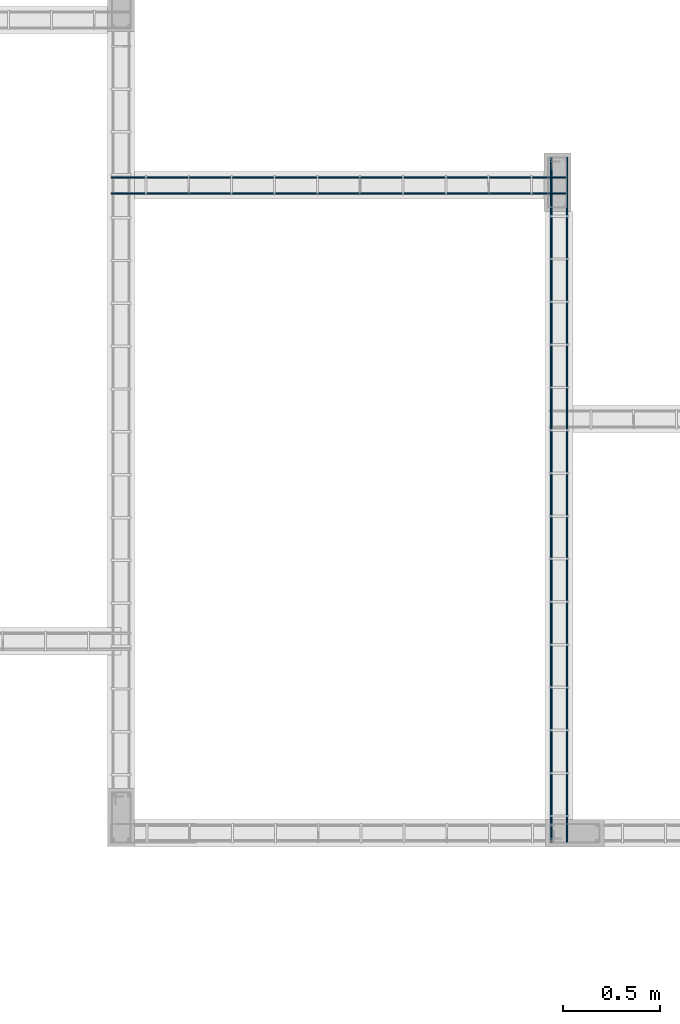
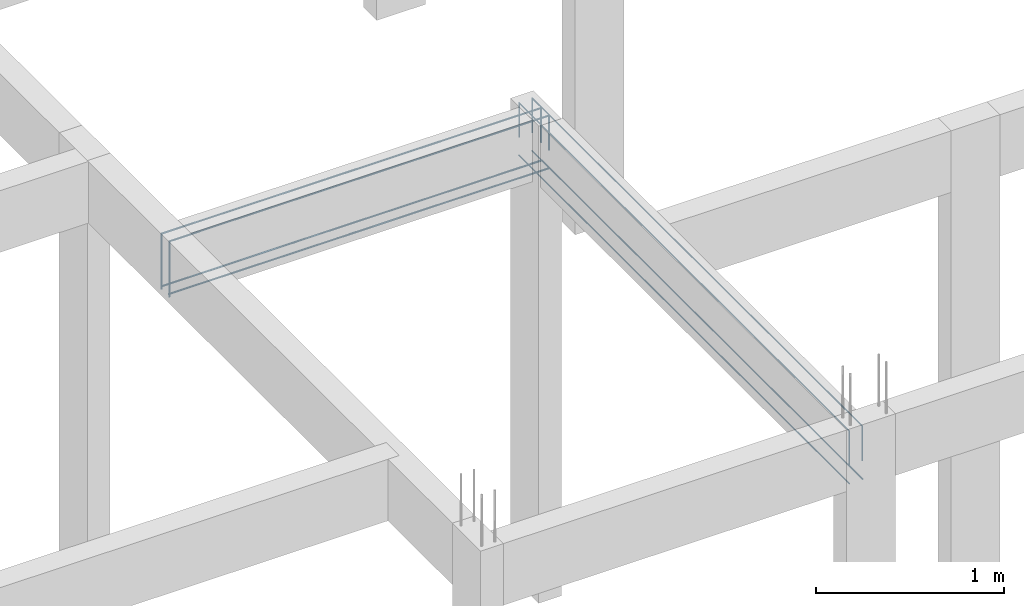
# One storey, part 44 of 236: 8 reinforcing bars.
"""IFC4 building model written with IfcOpenShell, lengths in centimetres."""

from ifc_helpers import new_model, entity, si_unit, derived_unit, frame, origin_with_axes, place, context, project, spatial, element, save


model = new_model("IFC4")

# Units and contexts
model_context = context("Model", 3, precision=1e-05, world=origin_with_axes(), identifier="Body")
ifc_project = project(units=[si_unit("LENGTHUNIT", "METRE", prefix="CENTI"), si_unit("VOLUMEUNIT", "CUBIC_METRE"), si_unit("AREAUNIT", "SQUARE_METRE"), si_unit("POWERUNIT", "WATT"), si_unit("LUMINOUSFLUXUNIT", "LUMEN"), si_unit("ELECTRICCURRENTUNIT", "AMPERE"), si_unit("PRESSUREUNIT", "PASCAL", prefix="KILO"), si_unit("MASSUNIT", "GRAM", prefix="KILO"), si_unit("PLANEANGLEUNIT", "RADIAN"), derived_unit("VOLUMETRICFLOWRATEUNIT", [(si_unit("LENGTHUNIT", "METRE"), 3), (si_unit("TIMEUNIT", "SECOND"), -1)])], contexts=[model_context])

# Site, building, storey
site_placement = place(None, frame((-4000.0, 0.0, 0.0), z_axis=(0.0, 0.0, 1.0), x_axis=(1.0, 0.0, 0.0)))
site = spatial("IfcSite", under=ifc_project, at=site_placement, Name="PADRÃO")
building_placement = place(site_placement, frame((0.0, 0.0, -14.0)))
building = spatial("IfcBuilding", under=site, at=building_placement, Name="CRECHE PRÉ-ESCOLA TIPO 2")
placement_1 = place(building_placement, origin_with_axes())
placement_2 = place(placement_1, frame((0.0, 0.0, 30.0), z_axis=(0.0, 0.0, 1.0), x_axis=(1.0, 0.0, 0.0)))
storey_placement = place(placement_2, frame((0.0, 0.0, 310.0), z_axis=(0.0, 0.0, 1.0), x_axis=(1.0, 0.0, 0.0)))
storey = spatial("IfcBuildingStorey", under=building, at=storey_placement, Name="TERREO", CompositionType="ELEMENT", Elevation=326.0)

# Reinforcing bars
for number, where, z_axis, x_axis, name in (
    (1, (2635.51, 751.69, -36.7), (0.0, 0.0, 1.0), (1.0, 0.0, 0.0), "V251 - Longitudinal inferior"),
    (2, (2635.51, 743.49, -36.7), (0.0, 0.0, 1.0), (1.0, 0.0, 0.0), "V251 - Longitudinal inferior"),
):
    element("IfcReinforcingBar", number, at=place(storey_placement, frame(where, z_axis=z_axis, x_axis=x_axis)), inside=storey, Name=name, BarLength=0.0, CrossSectionArea=5.0265482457e-05, NominalDiameter=0.8, PredefinedType="MAIN", context=model_context, shape_type="AdvancedSweptSolid", body=[
        entity("IfcSweptDiskSolid", entity("IfcCompositeCurve", [entity("IfcCompositeCurveSegment", "CONTINUOUS", True, entity("IfcPolyline", [entity("IfcCartesianPoint", [-117.01, 0.0, -0.4]), entity("IfcCartesianPoint", [117.01, 0.0, -0.4])]))], False), 0.4),
    ])
for number, where, z_axis, x_axis, name in (
    (3, (2635.51, 743.49, -2.49624973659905), (0.0, 0.0, 1.0), (1.0, 0.0, 0.0), "V251 - Longitudinal superior"),
    (4, (2635.51, 751.69, -2.49624973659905), (0.0, 0.0, 1.0), (1.0, 0.0, 0.0), "V251 - Longitudinal superior"),
):
    element("IfcReinforcingBar", number, at=place(storey_placement, frame(where, z_axis=z_axis, x_axis=x_axis)), inside=storey, Name=name, BarLength=0.0, CrossSectionArea=5.0265482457e-05, NominalDiameter=0.8, PredefinedType="MAIN", context=model_context, shape_type="AdvancedSweptSolid", body=[
        entity("IfcSweptDiskSolid", entity("IfcCompositeCurve", [entity("IfcCompositeCurveSegment", "CONTINUOUS", True, entity("IfcPolyline", [entity("IfcCartesianPoint", [-116.61, 0.0, -36.4037502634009]), entity("IfcCartesianPoint", [-116.61, 0.0, -0.403750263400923])])), entity("IfcCompositeCurveSegment", "CONTINUOUS", True, entity("IfcPolyline", [entity("IfcCartesianPoint", [-116.61, 0.0, -0.403750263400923]), entity("IfcCartesianPoint", [116.61, 0.0, -0.403750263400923])])), entity("IfcCompositeCurveSegment", "CONTINUOUS", True, entity("IfcPolyline", [entity("IfcCartesianPoint", [116.61, 0.0, -0.403750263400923]), entity("IfcCartesianPoint", [116.61, 0.0, -22.7014629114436])]))], False), 0.4),
    ])
for number, where, z_axis, x_axis, name in (
    (5, (2752.56, 586.045, -36.7), (0.0, 0.0, 1.0), (1.0, 0.0, 0.0), "V301 - Longitudinal inferior"),
    (6, (2744.36, 586.045, -36.7), (0.0, 0.0, 1.0), (1.0, 0.0, 0.0), "V301 - Longitudinal inferior"),
):
    element("IfcReinforcingBar", number, at=place(storey_placement, frame(where, z_axis=z_axis, x_axis=x_axis)), inside=storey, Name=name, BarLength=0.0, CrossSectionArea=5.0265482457e-05, NominalDiameter=0.8, PredefinedType="MAIN", context=model_context, shape_type="AdvancedSweptSolid", body=[
        entity("IfcSweptDiskSolid", entity("IfcCompositeCurve", [entity("IfcCompositeCurveSegment", "CONTINUOUS", True, entity("IfcPolyline", [entity("IfcCartesianPoint", [0.0, -176.035, -0.4]), entity("IfcCartesianPoint", [0.0, 176.035, -0.4])]))], False), 0.4),
    ])
for number, where, z_axis, x_axis, name in (
    (7, (2752.56, 586.045, -2.49624973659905), (0.0, 0.0, 1.0), (1.0, 0.0, 0.0), "V301 - Longitudinal superior"),
    (8, (2744.36, 586.045, -2.49624973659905), (0.0, 0.0, 1.0), (1.0, 0.0, 0.0), "V301 - Longitudinal superior"),
):
    element("IfcReinforcingBar", number, at=place(storey_placement, frame(where, z_axis=z_axis, x_axis=x_axis)), inside=storey, Name=name, BarLength=0.0, CrossSectionArea=5.0265482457e-05, NominalDiameter=0.8, PredefinedType="MAIN", context=model_context, shape_type="AdvancedSweptSolid", body=[
        entity("IfcSweptDiskSolid", entity("IfcCompositeCurve", [entity("IfcCompositeCurveSegment", "CONTINUOUS", True, entity("IfcPolyline", [entity("IfcCartesianPoint", [0.0, -175.635, -22.7014629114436]), entity("IfcCartesianPoint", [0.0, -175.635, -0.403750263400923])])), entity("IfcCompositeCurveSegment", "CONTINUOUS", True, entity("IfcPolyline", [entity("IfcCartesianPoint", [0.0, -175.635, -0.403750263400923]), entity("IfcCartesianPoint", [0.0, 175.635, -0.403750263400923])])), entity("IfcCompositeCurveSegment", "CONTINUOUS", True, entity("IfcPolyline", [entity("IfcCartesianPoint", [0.0, 175.635, -0.403750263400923]), entity("IfcCartesianPoint", [0.0, 175.635, -22.7014629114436])]))], False), 0.4),
    ])

save(model, "model.ifc")
